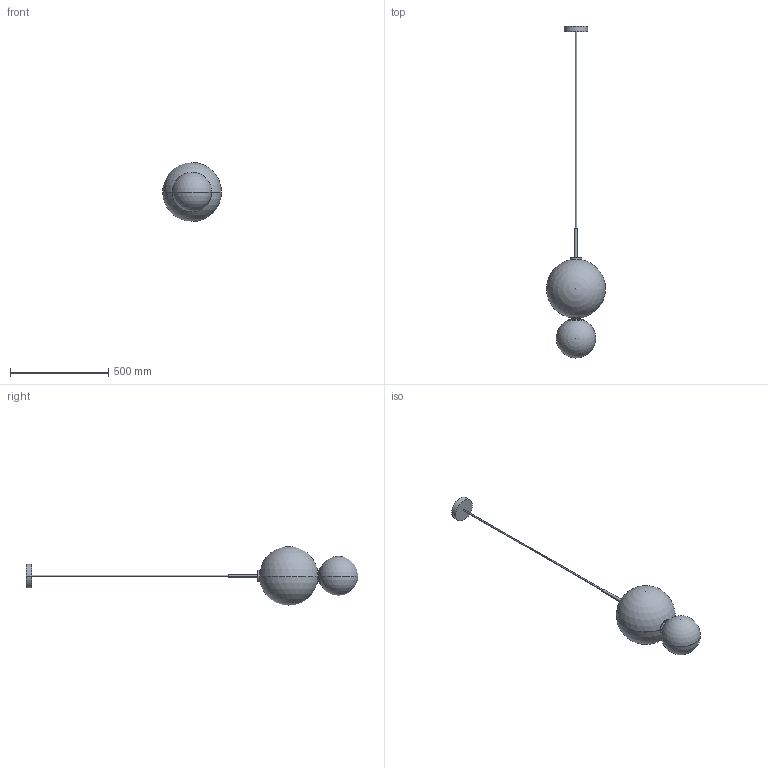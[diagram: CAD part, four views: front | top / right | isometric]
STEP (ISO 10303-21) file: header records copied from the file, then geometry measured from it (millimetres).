
FILE_DESCRIPTION (( 'STEP AP214' ), '1' );
FILE_NAME ('ULON_CU1236.STEP', '2026-06-08T15:03:32', ( '' ), ( '' ), 'SwSTEP 2.0', 'SolidWorks 2023', '' );
FILE_SCHEMA (( 'AUTOMOTIVE_DESIGN' ));
Length unit declared in the file: inch
Products named in the file (1): ULON_CU1236
Bounding box: 299.82 x 1690.58 x 300 mm (x, y, z)
Volume: 1719254.3 mm3; surface area: 897350.8 mm2
Topology: 7 solids, 7 shells, 92 faces, 238 edges, 152 vertices
Faces by surface type: cylinder 46, sphere 18, plane 16, torus 6, bspline 6
Entity records: 4711 total; most frequent: CARTESIAN_POINT 2583, DIRECTION 444, ORIENTED_EDGE 426, EDGE_CURVE 213, AXIS2_PLACEMENT_3D 194, VERTEX_POINT 137, CIRCLE 107, EDGE_LOOP 96
